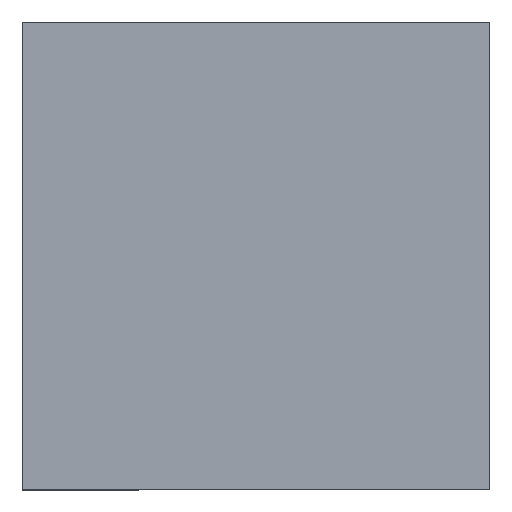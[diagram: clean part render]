
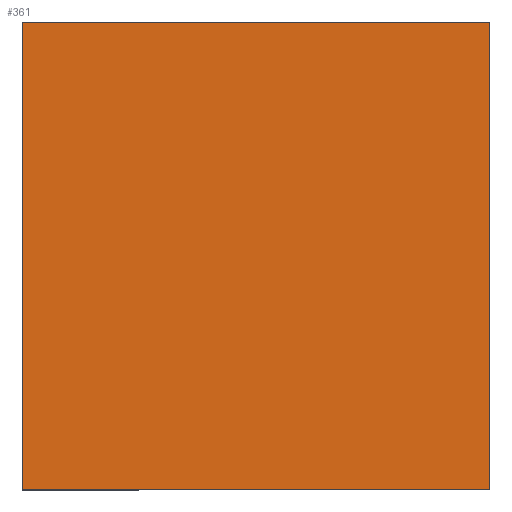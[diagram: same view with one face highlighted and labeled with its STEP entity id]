
A CAD part, top view. The second image highlights one B-rep face of the part: STEP entity #361.
In plain terms, the highlighted planar face has unit normal (0, 0, 1).
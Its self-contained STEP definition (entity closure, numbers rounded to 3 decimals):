
#163=FACE_OUTER_BOUND('',#1014,.T.);
#361=ADVANCED_FACE('',(#163),#431,.F.);
#431=PLANE('',#1857);
#1014=EDGE_LOOP('',(#1291,#1292,#1293,#1294));
#1291=ORIENTED_EDGE('',*,*,#1564,.F.);
#1292=ORIENTED_EDGE('',*,*,#1570,.F.);
#1293=ORIENTED_EDGE('',*,*,#1568,.F.);
#1294=ORIENTED_EDGE('',*,*,#1566,.F.);
#1427=VERTEX_POINT('',#2791);
#1428=VERTEX_POINT('',#2793);
#1429=VERTEX_POINT('',#2797);
#1430=VERTEX_POINT('',#2801);
#1564=EDGE_CURVE('',#1427,#1428,#1576,.T.);
#1566=EDGE_CURVE('',#1428,#1429,#1578,.T.);
#1568=EDGE_CURVE('',#1429,#1430,#1580,.T.);
#1570=EDGE_CURVE('',#1430,#1427,#1582,.T.);
#1576=LINE('',#2792,#1588);
#1578=LINE('',#2796,#1590);
#1580=LINE('',#2800,#1592);
#1582=LINE('',#2804,#1594);
#1588=VECTOR('',#2379,1.);
#1590=VECTOR('',#2383,1.);
#1592=VECTOR('',#2387,1.);
#1594=VECTOR('',#2391,1.);
#1857=AXIS2_PLACEMENT_3D('',#2806,#2394,#2395);
#2379=DIRECTION('',(0.,1.,0.));
#2383=DIRECTION('',(1.,0.,0.));
#2387=DIRECTION('',(0.,-1.,0.));
#2391=DIRECTION('',(-1.,0.,0.));
#2394=DIRECTION('',(0.,0.,-1.));
#2395=DIRECTION('',(0.,-1.,0.));
#2791=CARTESIAN_POINT('',(-20.7,-9.3,3.));
#2792=CARTESIAN_POINT('',(-20.7,-9.3,3.));
#2793=CARTESIAN_POINT('',(-20.7,20.7,3.));
#2796=CARTESIAN_POINT('',(-20.7,20.7,3.));
#2797=CARTESIAN_POINT('',(9.3,20.7,3.));
#2800=CARTESIAN_POINT('',(9.3,20.7,3.));
#2801=CARTESIAN_POINT('',(9.3,-9.3,3.));
#2804=CARTESIAN_POINT('',(9.3,-9.3,3.));
#2806=CARTESIAN_POINT('',(-25.,25.,3.));
